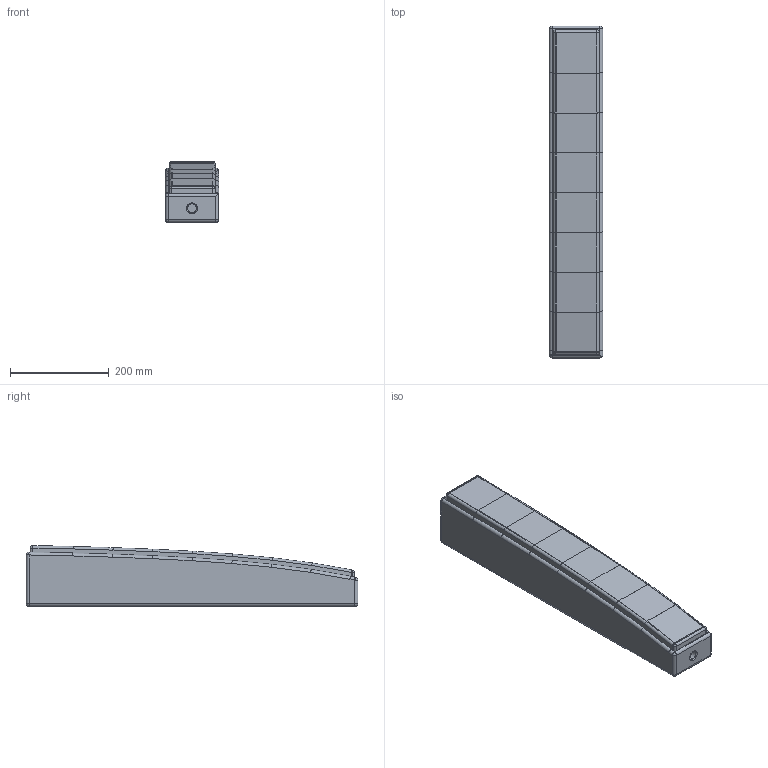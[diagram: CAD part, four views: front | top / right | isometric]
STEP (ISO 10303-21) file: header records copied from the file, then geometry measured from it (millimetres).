
FILE_DESCRIPTION (( 'STEP AP203' ), '1' );
FILE_NAME ('SEEBURG_L8j.STEP', '2012-09-26T09:26:50', ( 'Fabian' ), ( '' ), 'SwSTEP 2.0', 'SolidWorks 2009', '' );
FILE_SCHEMA (( 'CONFIG_CONTROL_DESIGN' ));
Length unit declared in the file: millimetre
Products named in the file (4): L8j_Gehäuse_Internet; L8j_Stoffrahmen_Internet; L8j-Rückwand_Internet; SEEBURG_L8j
Assembly tree (3 placements, depth 2):
  SEEBURG_L8j
    L8j-Rückwand_Internet
    L8j_Stoffrahmen_Internet
    L8j_Gehäuse_Internet
Bounding box: 108 x 670.73 x 123.01 mm (x, y, z)
Volume: 2421573.1 mm3; surface area: 670818.6 mm2
Topology: 7 solids, 7 shells, 218 faces, 554 edges, 338 vertices
Faces by surface type: plane 116, cylinder 73, cone 18, sphere 11
Entity records: 6863 total; most frequent: CARTESIAN_POINT 1312, ORIENTED_EDGE 1086, DIRECTION 1037, EDGE_CURVE 543, VECTOR 407, LINE 407, VERTEX_POINT 338, AXIS2_PLACEMENT_3D 315
